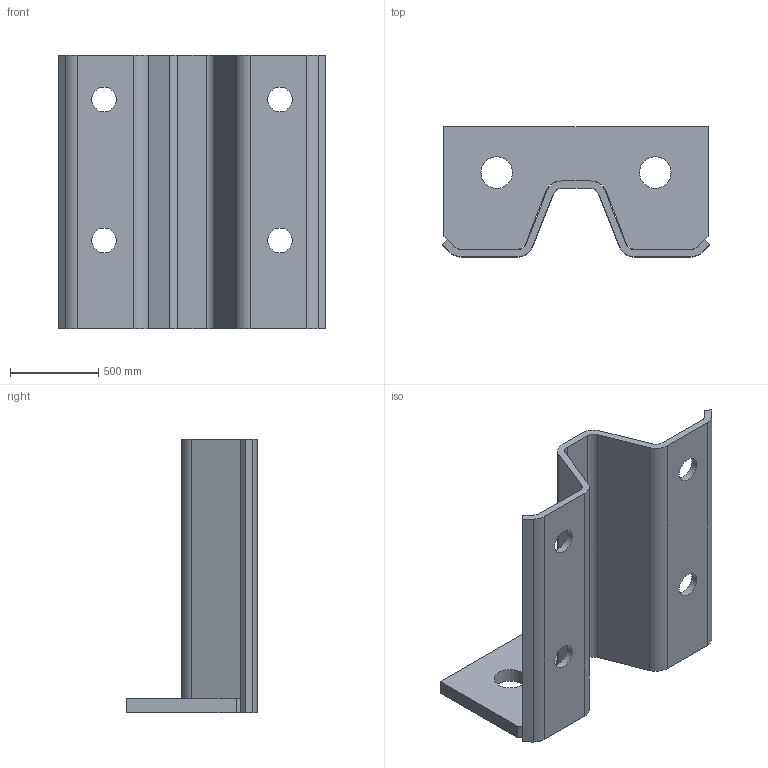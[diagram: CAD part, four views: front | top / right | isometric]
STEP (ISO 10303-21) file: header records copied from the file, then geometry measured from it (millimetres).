
FILE_DESCRIPTION(/* description */ (''),/* implementation_level */ '2;1');
FILE_NAME(/* name */ 'ZB170W90.stp',/* time_stamp */ '2024-10-31T15:18:33+01:00',/* author */ ('woriedl'),/* organization */ (''),/* preprocessor_version */ 'ST-DEVELOPER v20',/* originating_system */ 'AutoCAD Mechanical',/* authorisation */ '');
FILE_SCHEMA (('AUTOMOTIVE_DESIGN { 1 0 10303 214 3 1 1 }'));
Length unit declared in the file: centimetre
Products named in the file (3): Product; ZC170; W90
Assembly tree (2 placements, depth 2):
  Product
    ZC170
    W90
Bounding box: 1517.2 x 740 x 1550 mm (x, y, z)
Volume: 188022457.1 mm3; surface area: 8596026.2 mm2
Topology: 2 solids, 2 shells, 54 faces, 150 edges, 100 vertices
Faces by surface type: plane 30, cylinder 24
Full cylindrical faces by diameter (mm): 140 x4, 180 x2
Entity records: 1830 total; most frequent: DIRECTION 316, CARTESIAN_POINT 309, ORIENTED_EDGE 300, EDGE_CURVE 150, AXIS2_PLACEMENT_3D 107, LINE 102, VECTOR 102, VERTEX_POINT 100
